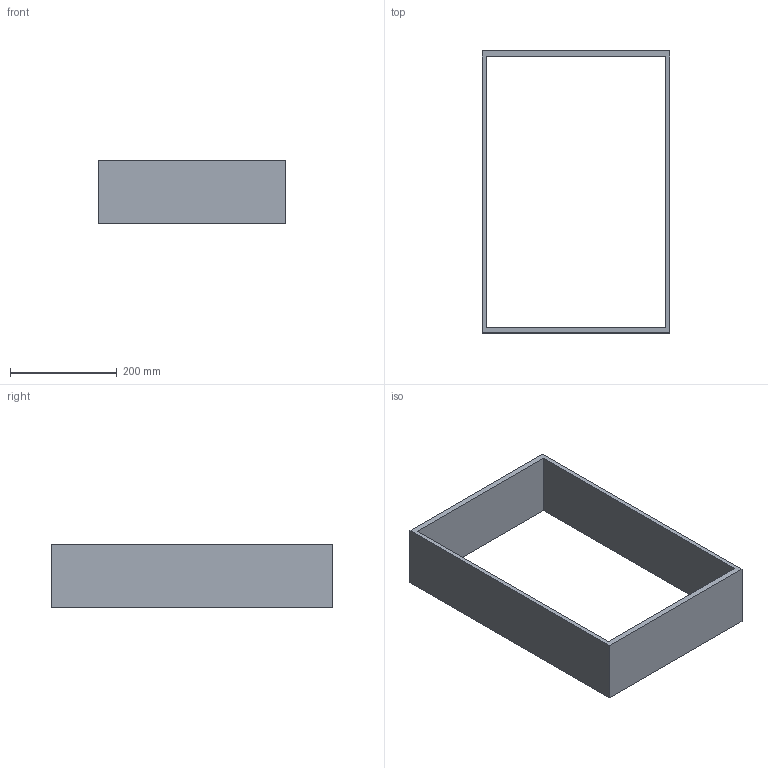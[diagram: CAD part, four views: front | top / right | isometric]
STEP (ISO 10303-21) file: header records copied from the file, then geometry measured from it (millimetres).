
FILE_DESCRIPTION (( 'STEP AP214' ), '1' );
FILE_NAME ('Vario Multi H120 NL550_B450_19 mm_Alu-Buche.step', '2010-10-08T09:47:37', ( 'grass' ), ( '' ), 'SwSTEP 2.0', 'SolidWorks 2010', '' );
FILE_SCHEMA (( 'AUTOMOTIVE_DESIGN' ));
Length unit declared in the file: millimetre
Products named in the file (1): Vario Multi H120 NL550_B450_19 mm_Alu-Buche
Bounding box: 352 x 529 x 120 mm (x, y, z)
Volume: 1902720 mm3; surface area: 445472 mm2
Topology: 1 solids, 1 shells, 10 faces, 24 edges, 16 vertices
Faces by surface type: plane 10
Entity records: 326 total; most frequent: CARTESIAN_POINT 51, ORIENTED_EDGE 48, DIRECTION 46, EDGE_CURVE 24, VECTOR 24, LINE 24, VERTEX_POINT 16, EDGE_LOOP 12
